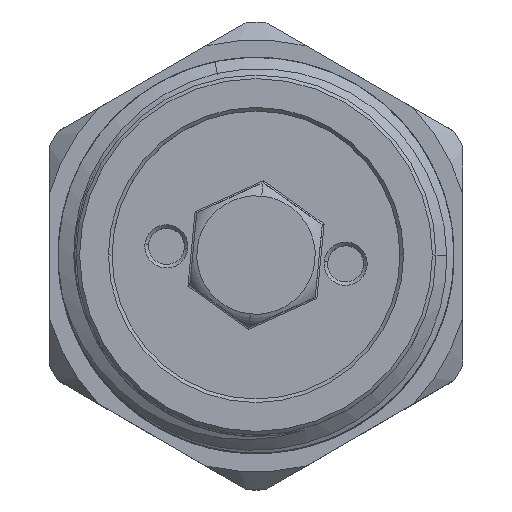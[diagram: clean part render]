
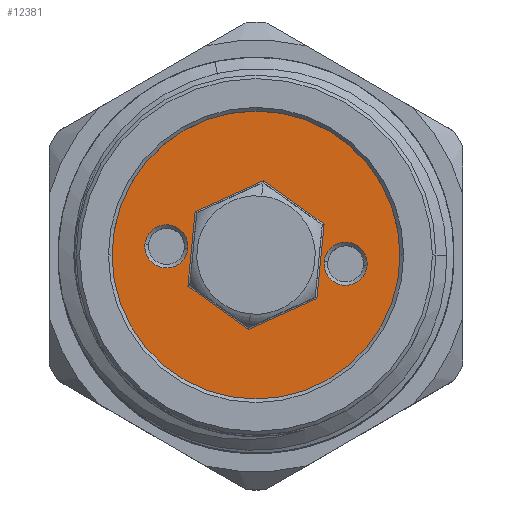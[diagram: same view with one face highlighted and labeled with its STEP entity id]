
A CAD part, top view. The second image highlights one B-rep face of the part: STEP entity #12381.
In plain terms, the highlighted planar face has unit normal (0, 0, 1) as drawn and (0, -1, 0) by its records, which use the part's own axes.
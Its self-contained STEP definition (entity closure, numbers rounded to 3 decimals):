
#11804=CARTESIAN_POINT('',(0.,0.,0.));
#11805=DIRECTION('',(0.,-1.,0.));
#11806=DIRECTION('',(-1.,0.,0.));
#11807=AXIS2_PLACEMENT_3D('',#11804,#11805,#11806);
#11809=CARTESIAN_POINT('',(0.,0.,0.));
#11810=DIRECTION('',(0.,-1.,0.));
#11811=DIRECTION('',(1.,0.,0.));
#11812=AXIS2_PLACEMENT_3D('',#11809,#11810,#11811);
#11814=CARTESIAN_POINT('',(-5.,0.,0.));
#11815=DIRECTION('',(0.,1.,0.));
#11816=DIRECTION('',(1.,0.,0.));
#11817=AXIS2_PLACEMENT_3D('',#11814,#11815,#11816);
#11819=CARTESIAN_POINT('',(-5.,0.,0.));
#11820=DIRECTION('',(0.,1.,0.));
#11821=DIRECTION('',(-1.,0.,0.));
#11822=AXIS2_PLACEMENT_3D('',#11819,#11820,#11821);
#11824=CARTESIAN_POINT('',(5.,0.,0.));
#11825=DIRECTION('',(0.,1.,0.));
#11826=DIRECTION('',(1.,0.,0.));
#11827=AXIS2_PLACEMENT_3D('',#11824,#11825,#11826);
#11829=CARTESIAN_POINT('',(5.,0.,0.));
#11830=DIRECTION('',(0.,1.,0.));
#11831=DIRECTION('',(-1.,0.,0.));
#11832=AXIS2_PLACEMENT_3D('',#11829,#11830,#11831);
#11834=DIRECTION('',(-0.866,0.,0.5));
#11835=VECTOR('',#11834,4.157);
#11836=CARTESIAN_POINT('',(3.6,0.,2.078));
#11837=LINE('',#11836,#11835);
#11838=DIRECTION('',(-0.866,0.,-0.5));
#11839=VECTOR('',#11838,4.157);
#11840=CARTESIAN_POINT('',(0.,0.,4.157));
#11841=LINE('',#11840,#11839);
#11842=DIRECTION('',(0.,0.,-1.));
#11843=VECTOR('',#11842,4.157);
#11844=CARTESIAN_POINT('',(-3.6,0.,2.078));
#11845=LINE('',#11844,#11843);
#11846=DIRECTION('',(0.866,0.,-0.5));
#11847=VECTOR('',#11846,4.157);
#11848=CARTESIAN_POINT('',(-3.6,0.,-2.078));
#11849=LINE('',#11848,#11847);
#11850=DIRECTION('',(0.866,0.,0.5));
#11851=VECTOR('',#11850,4.157);
#11852=CARTESIAN_POINT('',(0.,0.,-4.157));
#11853=LINE('',#11852,#11851);
#11854=DIRECTION('',(0.,0.,1.));
#11855=VECTOR('',#11854,4.157);
#11856=CARTESIAN_POINT('',(3.6,0.,-2.078));
#11857=LINE('',#11856,#11855);
#12270=CARTESIAN_POINT('',(-8.3,0.,0.));
#12271=CARTESIAN_POINT('',(8.3,0.,0.));
#12272=VERTEX_POINT('',#12270);
#12273=VERTEX_POINT('',#12271);
#12278=CARTESIAN_POINT('',(-3.8,0.,0.));
#12279=CARTESIAN_POINT('',(-6.2,0.,0.));
#12280=VERTEX_POINT('',#12278);
#12281=VERTEX_POINT('',#12279);
#12294=CARTESIAN_POINT('',(6.2,0.,0.));
#12295=CARTESIAN_POINT('',(3.8,0.,0.));
#12296=VERTEX_POINT('',#12294);
#12297=VERTEX_POINT('',#12295);
#12320=CARTESIAN_POINT('',(3.6,0.,2.078));
#12321=CARTESIAN_POINT('',(0.,0.,4.157));
#12322=VERTEX_POINT('',#12320);
#12323=VERTEX_POINT('',#12321);
#12328=CARTESIAN_POINT('',(3.6,0.,-2.078));
#12329=VERTEX_POINT('',#12328);
#12332=CARTESIAN_POINT('',(0.,0.,-4.157));
#12333=VERTEX_POINT('',#12332);
#12336=CARTESIAN_POINT('',(-3.6,0.,-2.078));
#12337=VERTEX_POINT('',#12336);
#12340=CARTESIAN_POINT('',(-3.6,0.,2.078));
#12341=VERTEX_POINT('',#12340);
#12344=CARTESIAN_POINT('',(0.,0.,0.));
#12345=DIRECTION('',(0.,1.,0.));
#12346=DIRECTION('',(1.,0.,0.));
#12347=AXIS2_PLACEMENT_3D('',#12344,#12345,#12346);
#12348=PLANE('',#12347);
#12350=ORIENTED_EDGE('',*,*,#12349,.F.);
#12352=ORIENTED_EDGE('',*,*,#12351,.F.);
#12353=EDGE_LOOP('',(#12350,#12352));
#12354=FACE_OUTER_BOUND('',#12353,.F.);
#12356=ORIENTED_EDGE('',*,*,#12355,.F.);
#12358=ORIENTED_EDGE('',*,*,#12357,.F.);
#12359=EDGE_LOOP('',(#12356,#12358));
#12360=FACE_BOUND('',#12359,.F.);
#12362=ORIENTED_EDGE('',*,*,#12361,.F.);
#12364=ORIENTED_EDGE('',*,*,#12363,.F.);
#12365=EDGE_LOOP('',(#12362,#12364));
#12366=FACE_BOUND('',#12365,.F.);
#12368=ORIENTED_EDGE('',*,*,#12367,.T.);
#12370=ORIENTED_EDGE('',*,*,#12369,.T.);
#12372=ORIENTED_EDGE('',*,*,#12371,.T.);
#12374=ORIENTED_EDGE('',*,*,#12373,.T.);
#12376=ORIENTED_EDGE('',*,*,#12375,.T.);
#12378=ORIENTED_EDGE('',*,*,#12377,.T.);
#12379=EDGE_LOOP('',(#12368,#12370,#12372,#12374,#12376,#12378));
#12380=FACE_BOUND('',#12379,.F.);
#12381=ADVANCED_FACE('',(#12354,#12360,#12366,#12380),#12348,.F.);
#11808=CIRCLE('',#11807,8.3);
#11813=CIRCLE('',#11812,8.3);
#11818=CIRCLE('',#11817,1.2);
#11823=CIRCLE('',#11822,1.2);
#11828=CIRCLE('',#11827,1.2);
#11833=CIRCLE('',#11832,1.2);
#12349=EDGE_CURVE('',#12272,#12273,#11808,.T.);
#12351=EDGE_CURVE('',#12273,#12272,#11813,.T.);
#12355=EDGE_CURVE('',#12280,#12281,#11818,.T.);
#12357=EDGE_CURVE('',#12281,#12280,#11823,.T.);
#12361=EDGE_CURVE('',#12296,#12297,#11828,.T.);
#12363=EDGE_CURVE('',#12297,#12296,#11833,.T.);
#12367=EDGE_CURVE('',#12322,#12323,#11837,.T.);
#12369=EDGE_CURVE('',#12323,#12341,#11841,.T.);
#12371=EDGE_CURVE('',#12341,#12337,#11845,.T.);
#12373=EDGE_CURVE('',#12337,#12333,#11849,.T.);
#12375=EDGE_CURVE('',#12333,#12329,#11853,.T.);
#12377=EDGE_CURVE('',#12329,#12322,#11857,.T.);
